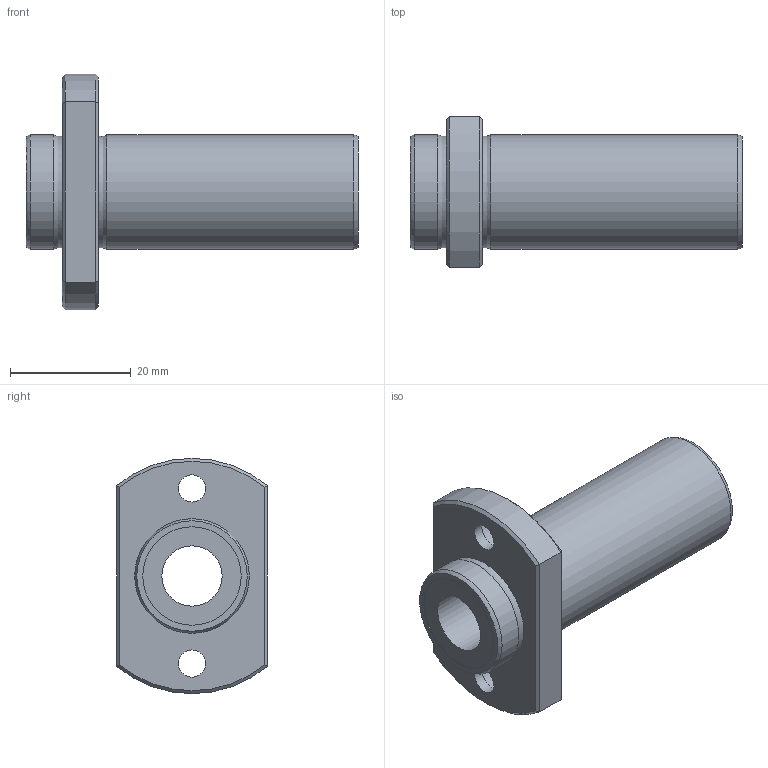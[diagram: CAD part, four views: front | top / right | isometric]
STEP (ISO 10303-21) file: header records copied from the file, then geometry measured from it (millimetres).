
FILE_DESCRIPTION((''),'2;1');
FILE_NAME('D:\製品 (図面)\カタログ用3D\リニアベアリング関連\STEP形式\LFDTB\LFDTB10.stp','2010-06-03T09:49:49',('Tsuchiya'),(''),'Autodesk Inventor 10','Autodesk Inventor 10','');
FILE_SCHEMA(('AUTOMOTIVE_DESIGN { 1 0 10303 214 1 1 1 1 }'));
Length unit declared in the file: millimetre
Products named in the file (1): LFDTB10
Bounding box: 55 x 25 x 39 mm (x, y, z)
Volume: 14402.1 mm3; surface area: 7121.7 mm2
Topology: 1 solids, 1 shells, 33 faces, 63 edges, 38 vertices
Faces by surface type: plane 12, bspline 8, cylinder 7, cone 4, torus 2
Full cylindrical faces by diameter (mm): 10 x1, 16.3 x2, 19 x2
Entity records: 977 total; most frequent: CARTESIAN_POINT 344, DIRECTION 124, ORIENTED_EDGE 100, EDGE_LOOP 58, AXIS2_PLACEMENT_3D 56, EDGE_CURVE 50, VERTEX_POINT 38, FACE_OUTER_BOUND 33
